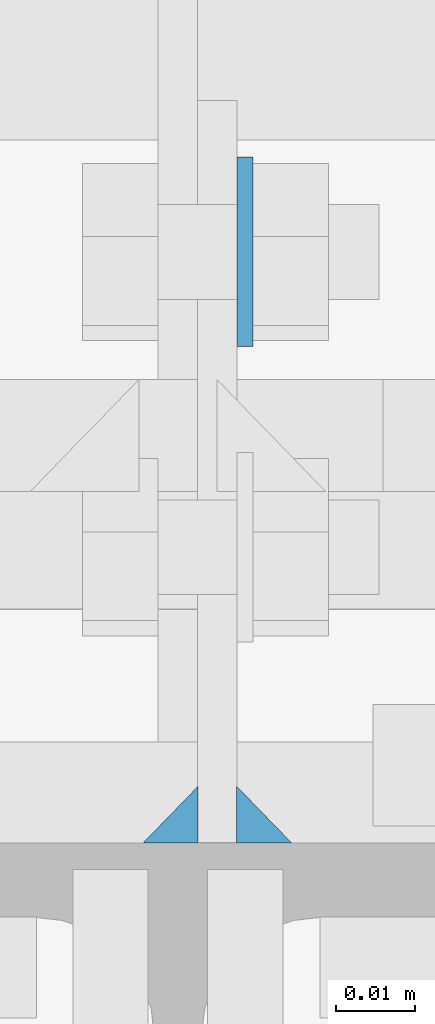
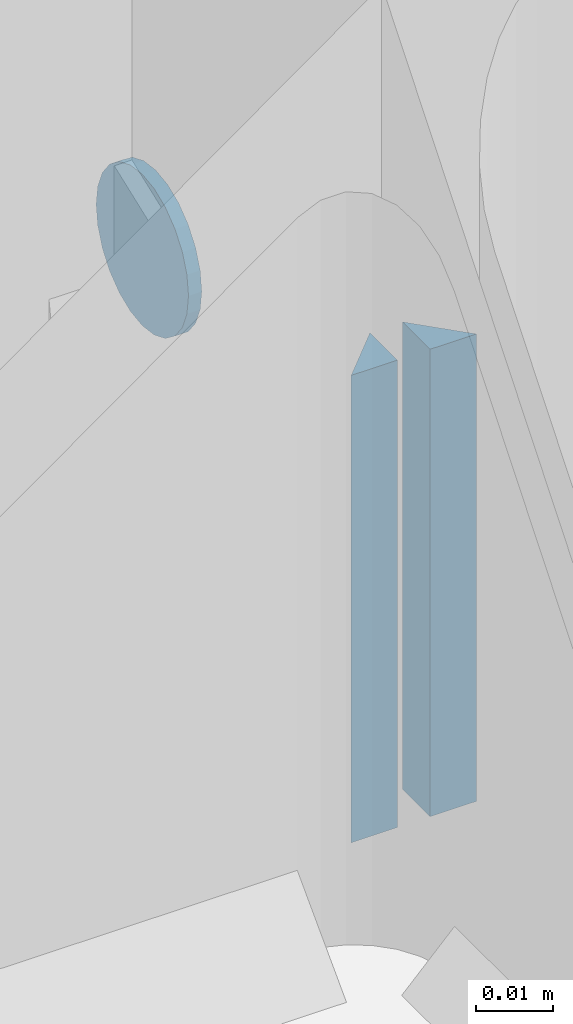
# One storey, part 57 of 66: 2 fasteners, 1 mechanical fastener.
"""IFC4 building model written with IfcOpenShell, lengths in metres."""

from ifc_helpers import new_model, si_unit, frame, origin_with_axes, place, context, project, spatial, polyline, outline, extrude, type_object, element, save


model = new_model("IFC4")

# Units and contexts
model_context = context("Model", 3, precision=1e-05, world=origin_with_axes())
ifc_project = project(units=[si_unit("LENGTHUNIT", "METRE"), si_unit("AREAUNIT", "SQUARE_METRE"), si_unit("VOLUMEUNIT", "CUBIC_METRE"), si_unit("MASSUNIT", "GRAM", prefix="KILO"), si_unit("TIMEUNIT", "SECOND"), si_unit("PLANEANGLEUNIT", "RADIAN"), si_unit("SOLIDANGLEUNIT", "STERADIAN"), si_unit("THERMODYNAMICTEMPERATUREUNIT", "DEGREE_CELSIUS")], contexts=[model_context])

# Site, building, storey
placement_1 = place(None, origin_with_axes())
site = spatial("IfcSite", under=ifc_project, at=placement_1, Name="Italia", CompositionType="ELEMENT")
building = spatial("IfcBuilding", under=site, at=placement_1, Name="Uffici", CompositionType="ELEMENT")
storey_placement = place(None, frame((0.0, 0.0, 3.299999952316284), z_axis=(0.0, 0.0, 1.0), x_axis=(1.0, 0.0, 0.0)))
storey = spatial("IfcBuildingStorey", under=building, at=storey_placement, Name="Storey 1", CompositionType="ELEMENT", Elevation=3.299999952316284)

# Mechanical fastener
mechanical_fastener_type = type_object("IfcMechanicalFastenerType", Name="Collegamento 0105_0210", PredefinedType="BOLT")
placement_2 = place(placement_1, origin_with_axes())
mechanical_fastener_placement = place(placement_2, origin_with_axes())
element("IfcMechanicalFastener", 1, at=mechanical_fastener_placement, inside=storey, type_object=mechanical_fastener_type, Name="Collegamento 0105_0210", NominalDiameter=0.024, context=model_context, shape_type="SweptSolid", body=[
    extrude(outline(polyline([(0.0, 0.0), (-0.000408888, -0.00310588), (-0.00160769, -0.00600004), (-0.00351471, -0.00848532), (-0.006, -0.0103922), (-0.00889416, -0.0115912), (-0.012, -0.0120001), (-0.0151058, -0.0115912), (-0.018, -0.0103922), (-0.0204853, -0.00848532), (-0.0223923, -0.00600004), (-0.0235911, -0.00310588), (-0.024, 0.0), (-0.0235911, 0.00310588), (-0.0223923, 0.00600004), (-0.0204853, 0.00848532), (-0.018, 0.0103922), (-0.0151058, 0.0115912), (-0.012, 0.0120001), (-0.00889416, 0.0115912), (-0.006, 0.0103922), (-0.00351471, 0.00848532), (-0.00160769, 0.00600004), (-0.000408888, 0.00310588), (0.0, 0.0)])), frame((13.9795, 0.148302, 3.37148), z_axis=(-1.0, 0.0, 0.0), x_axis=(0.0, -1.0, 0.0)), (0.0, 0.0, 1.0), 0.00199986),
])

# Fasteners
fastener_type_1 = type_object("IfcFastenerType", Name="Collegamento 0105_0210", PredefinedType="WELD")
fastener_1_placement = place(placement_2, origin_with_axes())
element("IfcFastener", 2, at=fastener_1_placement, inside=storey, type_object=fastener_type_1, Name="Collegamento 0105_0210", context=model_context, shape_type="SweptSolid", body=[
    extrude(outline(polyline([(0.0, 0.0), (0.00717336, -0.00695801), (0.0, -0.00695801), (0.0, 0.0)])), frame((13.9844, 0.08545, 3.40116), z_axis=(0.0, 5.02736498e-07, -1.0), x_axis=(0.0, 1.0, 0.0)), (0.0, 0.0, 1.0), 0.0741003),
])
fastener_type_2 = type_object("IfcFastenerType", Name="Collegamento 0105_0210", PredefinedType="WELD")
fastener_2_placement = place(placement_2, origin_with_axes())
element("IfcFastener", 3, at=fastener_2_placement, inside=storey, type_object=fastener_type_2, Name="Collegamento 0105_0210", context=model_context, shape_type="SweptSolid", body=[
    extrude(outline(polyline([(0.0, 0.0), (0.00717336, -0.00695801), (0.0, -0.00695801), (0.0, 0.0)])), frame((13.9656, 0.08545, 3.32706), z_axis=(0.0, -5.02734906e-07, 1.0), x_axis=(0.0, 1.0, 0.0)), (0.0, 0.0, 1.0), 0.0741005),
])

save(model, "model.ifc")
